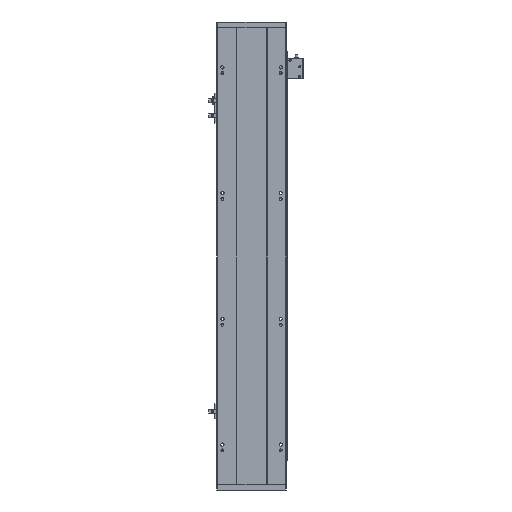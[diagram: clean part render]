
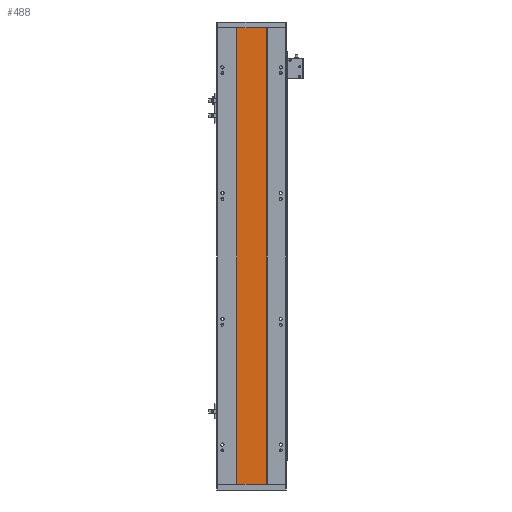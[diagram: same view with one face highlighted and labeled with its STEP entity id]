
A CAD part, front view. The second image highlights one B-rep face of the part: STEP entity #488.
In plain terms, the highlighted planar face has unit normal (0, -1, 0).
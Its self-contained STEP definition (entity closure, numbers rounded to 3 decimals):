
#280 = ORIENTED_EDGE ( 'NONE', *, *, #20535, .F. ) ;
#488 = ADVANCED_FACE ( 'NONE', ( #7678 ), #9485, .F. ) ;
#516 = VERTEX_POINT ( 'NONE', #16862 ) ;
#727 = CARTESIAN_POINT ( 'NONE',  ( 133.07, 115.96, 784. ) ) ;
#1225 = VERTEX_POINT ( 'NONE', #3314 ) ;
#1582 = DIRECTION ( 'NONE',  ( 0., 1., 0. ) ) ;
#2256 = CARTESIAN_POINT ( 'NONE',  ( 133.07, 115.96, 0. ) ) ;
#2563 = DIRECTION ( 'NONE',  ( 0., 0., -1. ) ) ;
#3314 = CARTESIAN_POINT ( 'NONE',  ( 183.063, 115.96, 0. ) ) ;
#3489 = LINE ( 'NONE', #18753, #20976 ) ;
#3898 = DIRECTION ( 'NONE',  ( 1., 0., 0. ) ) ;
#5988 = LINE ( 'NONE', #727, #8090 ) ;
#6385 = AXIS2_PLACEMENT_3D ( 'NONE', #11440, #1582, #14934 ) ;
#6852 = EDGE_CURVE ( 'NONE', #19467, #1225, #11740, .T. ) ;
#6914 = VECTOR ( 'NONE', #3898, 1000. ) ;
#7678 = FACE_OUTER_BOUND ( 'NONE', #12783, .T. ) ;
#8090 = VECTOR ( 'NONE', #2563, 1000. ) ;
#8494 = VECTOR ( 'NONE', #12147, 1000. ) ;
#9173 = DIRECTION ( 'NONE',  ( 0., 0., -1. ) ) ;
#9485 = PLANE ( 'NONE',  #6385 ) ;
#11440 = CARTESIAN_POINT ( 'NONE',  ( 0., 115.96, 784. ) ) ;
#11740 = LINE ( 'NONE', #19351, #6914 ) ;
#12147 = DIRECTION ( 'NONE',  ( 1., 0., 0. ) ) ;
#12671 = ORIENTED_EDGE ( 'NONE', *, *, #23829, .T. ) ;
#12783 = EDGE_LOOP ( 'NONE', ( #17769, #16825, #280, #12671 ) ) ;
#14934 = DIRECTION ( 'NONE',  ( -1., 0., 0. ) ) ;
#16117 = CARTESIAN_POINT ( 'NONE',  ( 0., 115.96, 784. ) ) ;
#16825 = ORIENTED_EDGE ( 'NONE', *, *, #16849, .F. ) ;
#16833 = CARTESIAN_POINT ( 'NONE',  ( 133.07, 115.96, 784. ) ) ;
#16849 = EDGE_CURVE ( 'NONE', #516, #1225, #3489, .T. ) ;
#16862 = CARTESIAN_POINT ( 'NONE',  ( 183.063, 115.96, 784. ) ) ;
#17769 = ORIENTED_EDGE ( 'NONE', *, *, #6852, .T. ) ;
#18172 = LINE ( 'NONE', #16117, #8494 ) ;
#18753 = CARTESIAN_POINT ( 'NONE',  ( 183.063, 115.96, 784. ) ) ;
#19351 = CARTESIAN_POINT ( 'NONE',  ( 0., 115.96, 0. ) ) ;
#19467 = VERTEX_POINT ( 'NONE', #2256 ) ;
#20535 = EDGE_CURVE ( 'NONE', #24055, #516, #18172, .T. ) ;
#20976 = VECTOR ( 'NONE', #9173, 1000. ) ;
#23829 = EDGE_CURVE ( 'NONE', #24055, #19467, #5988, .T. ) ;
#24055 = VERTEX_POINT ( 'NONE', #16833 ) ;
